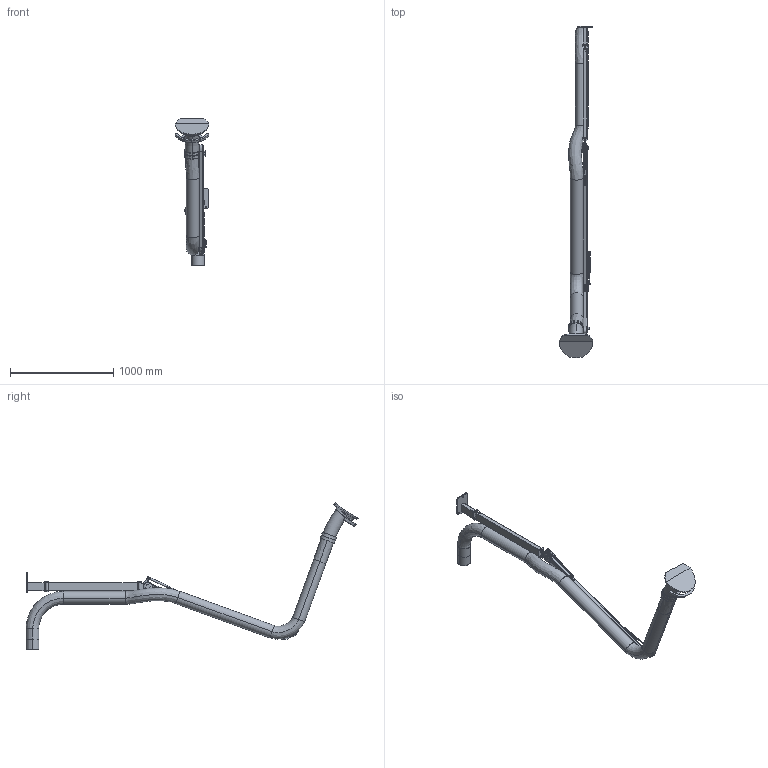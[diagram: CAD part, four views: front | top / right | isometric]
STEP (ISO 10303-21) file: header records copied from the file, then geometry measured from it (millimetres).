
FILE_DESCRIPTION((''),'2;1');
FILE_NAME('PR4000-125','2018-10-01T',('Gustav Stenberg'),(''),'CREO PARAMETRIC BY PTC INC, 2016130','CREO PARAMETRIC BY PTC INC, 2016130','');
FILE_SCHEMA(('AUTOMOTIVE_DESIGN { 1 0 10303 214 1 1 1 1 }'));
Length unit declared in the file: millimetre
Products named in the file (49): 100-6303-02; 100-6301-02; 100-6305-2; 100-6300-03; 100-6303; 100-6300-01; 100-6300-02; 100-6300-04; 100-6300; 100062; 102683; 100-5506_L_LIGHT; 100-5506_R_LIGHT; 100-5506; 100-5404-L_LIGHT; 100-5404-R_LIGHT; 100-5404; 100-5914; 100-5913; 100-5915; 135085; 102679; 100-5512-L_LIGHT; 100-512-R_LIGHT; 100-5512; 122219; 102715; 100-5911; 100-5518; 100-6305-1; 100-6305; 134112; 100-5721_LIGHT; 100-5822_LIGHT; 100-5862A_LIGHT; 100-5865A_LIGHT; 126055_AF2; 100-6341-125; 135584; STAB_K4-D4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
Assembly tree (53 placements, depth 5):
  PR4000-125
    100062
      100-6303
        100-6303-02
        100-6301-02
        100-6305-2
        100-6300-03
      100-6300
        100-6300-01
        100-6300-02
        100-6300-04
    134112
      135085
        102683
        100-5506
          100-5506_L_LIGHT
          100-5506_R_LIGHT
        100-5404
          100-5404-L_LIGHT
          100-5404-R_LIGHT
        100-5915  x2
          100-5914
          100-5913
      122219
        102679
        100-5512
          100-5512-L_LIGHT
          100-512-R_LIGHT
      100-5518
        102715
        100-5911
      100-6305
        100-6305-2
        100-6305-1
        100-5911
    100-5721_LIGHT
    100-6341-125
      100-5822_LIGHT
      100-5862A_LIGHT
      100-5865A_LIGHT
      126055_AF2
    130368
      135584
      STAB_K4-D4
    102118-REF
    130371
      135588
      STAB_K4-D4
    102845-REF
      GAS_SPRING_ROD_STABILUS
      STAB_K4-D4
    135113
    100-5835
Bounding box: 328.82 x 3220.28 x 1422.97 mm (x, y, z)
Volume: 13359485.5 mm3; surface area: 4722107.9 mm2
Topology: 39 solids, 40 shells, 1001 faces, 2425 edges, 1501 vertices
Faces by surface type: plane 337, cylinder 337, cone 128, bspline 94, torus 75, sphere 26, extrusion 4
Entity records: 50738 total; most frequent: CARTESIAN_POINT 12990, DIRECTION 4523, ORIENTED_EDGE 4252, EDGE_CURVE 2126, PROPERTY_DEFINITION 2013, REPRESENTATION 1981, PROPERTY_DEFINITION_REPRESENTATION 1981, AXIS2_PLACEMENT_3D 1797
